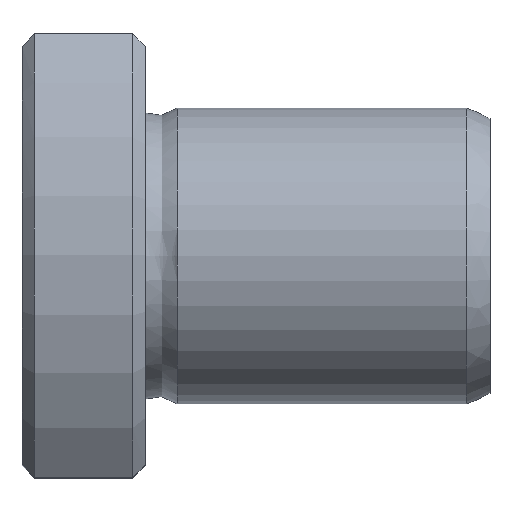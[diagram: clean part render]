
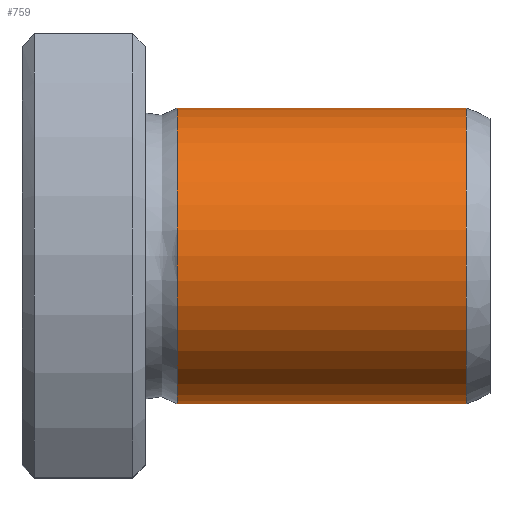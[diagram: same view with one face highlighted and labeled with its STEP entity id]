
A CAD part, top view. The second image highlights one B-rep face of the part: STEP entity #759.
In plain terms, the highlighted cylindrical face has radius 6 mm (diameter 12 mm), a full revolution.
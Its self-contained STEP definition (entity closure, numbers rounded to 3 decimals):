
#725=CARTESIAN_POINT('',(18.043,0.0,6.));
#726=VERTEX_POINT('',#725);
#727=CARTESIAN_POINT('',(18.043,0.0,0.0));
#728=DIRECTION('',(-1.0,0.0,0.0));
#729=DIRECTION('',(0.0,0.0,1.0));
#730=AXIS2_PLACEMENT_3D('',#727,#728,#729);
#731=CIRCLE('',#730,6.);
#732=EDGE_CURVE('',#726,#726,#731,.T.);
#740=CARTESIAN_POINT('',(12.168,0.0,0.0));
#741=DIRECTION('',(-1.0,0.0,0.0));
#742=DIRECTION('',(0.0,0.0,1.0));
#743=AXIS2_PLACEMENT_3D('',#740,#741,#742);
#744=CYLINDRICAL_SURFACE('',#743,6.);
#745=CARTESIAN_POINT('',(6.294,0.0,6.));
#746=VERTEX_POINT('',#745);
#747=CARTESIAN_POINT('',(6.294,0.0,0.0));
#748=DIRECTION('',(-1.0,0.0,0.0));
#749=DIRECTION('',(0.0,0.0,1.0));
#750=AXIS2_PLACEMENT_3D('',#747,#748,#749);
#751=CIRCLE('',#750,6.);
#752=EDGE_CURVE('',#746,#746,#751,.T.);
#753=ORIENTED_EDGE('',*,*,#752,.F.);
#754=EDGE_LOOP('',(#753));
#755=FACE_OUTER_BOUND('',#754,.T.);
#756=ORIENTED_EDGE('',*,*,#732,.T.);
#757=EDGE_LOOP('',(#756));
#758=FACE_BOUND('',#757,.T.);
#759=ADVANCED_FACE('',(#755,#758),#744,.T.);
